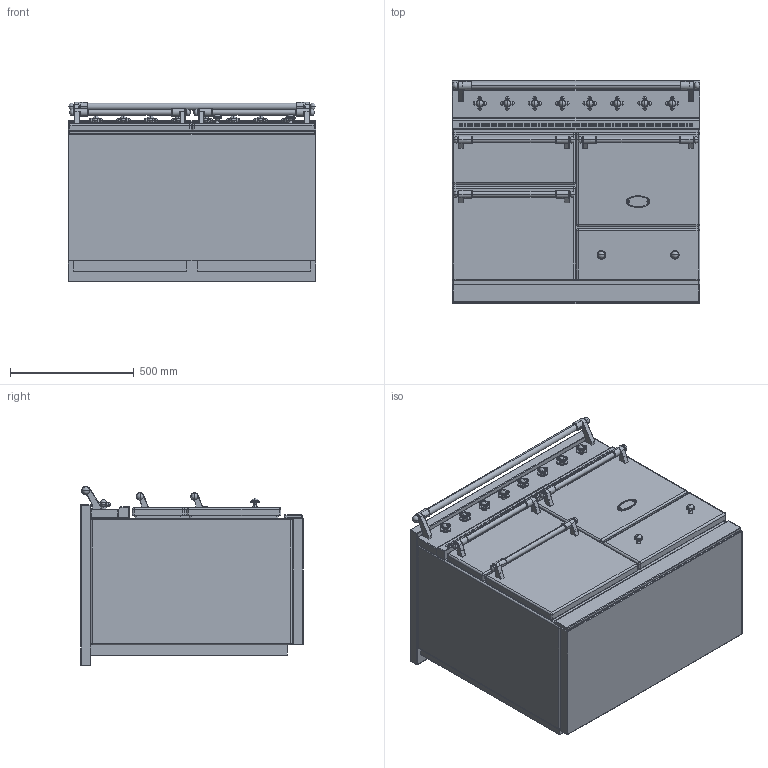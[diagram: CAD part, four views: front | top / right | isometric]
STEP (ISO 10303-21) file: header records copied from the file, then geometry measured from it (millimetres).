
FILE_DESCRIPTION((''),'2;1');
FILE_NAME('LVTR1053_ASM','2014-07-29T',('r.avril'),(''),'PRO/ENGINEER BY PARAMETRIC TECHNOLOGY CORPORATION, 2014090','PRO/ENGINEER BY PARAMETRIC TECHNOLOGY CORPORATION, 2014090','');
FILE_SCHEMA(('AP203_CONFIGURATION_CONTROLLED_3D_DESIGN_OF_MECHANICAL_PARTS_AND_ASSEMBLIES_MIM_LF { 1 0 10303 403 2 1 2 }'));
Products named in the file (17): BASE_EXPORT_CHAGNY; 65650003; 65650004; 6531940; 6531941; 6538399; 1931942; 6518450; 6531942_ASM; 6531943; 65049009; 65650001; BASE_EXPORT_CHAGNY_ASM; TABLE_1000_VITRO; 65052005; TABLE_1000_VITRO_ASM; LVTR1053_ASM
Assembly tree (28 placements, depth 4):
  LVTR1053_ASM
    BASE_EXPORT_CHAGNY_ASM
      BASE_EXPORT_CHAGNY
      65650003
      65650004
      6531940  x3
      6531941  x3
      6531942_ASM  x8
        6538399
        1931942
        6518450
      6531943  x2
      65049009
      65650001
    TABLE_1000_VITRO_ASM
      TABLE_1000_VITRO
      65052005
Bounding box: 1000 x 901 x 724 mm (x, y, z)
Volume: 525659434.7 mm3; surface area: 8709330.8 mm2
Topology: 39 solids, 49 shells, 3643 faces, 10212 edges, 6936 vertices
Faces by surface type: plane 1914, cylinder 967, extrusion 226, torus 206, sphere 182, cone 74, bspline 58, revolution 16
Entity records: 57979 total; most frequent: CARTESIAN_POINT 11841, DIRECTION 7932, ORIENTED_EDGE 6422, EDGE_CURVE 3221, AXIS2_PLACEMENT_3D 2816, VECTOR 2241, LINE 2211, VERTEX_POINT 2027
